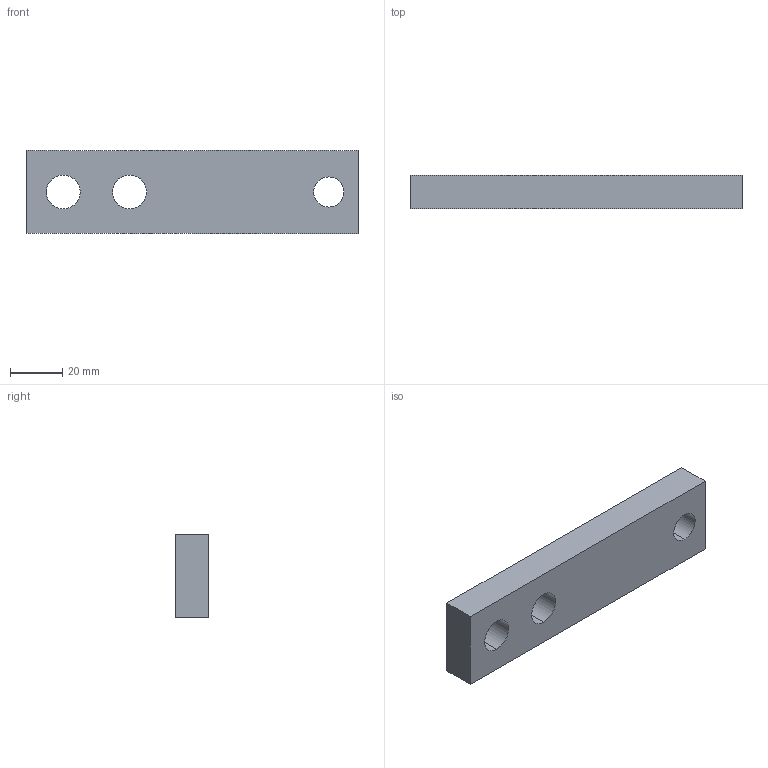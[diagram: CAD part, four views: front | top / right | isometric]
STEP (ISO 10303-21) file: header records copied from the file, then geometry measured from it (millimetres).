
FILE_DESCRIPTION (( 'STEP AP214' ), '1' );
FILE_NAME ('SS1558-500LB.STEP', '2024-09-09T12:37:50', ( '' ), ( '' ), 'SwSTEP 2.0', 'SolidWorks 2008', '' );
FILE_SCHEMA (( 'AUTOMOTIVE_DESIGN' ));
Length unit declared in the file: inch
Products named in the file (1): SS1558-500LB
Bounding box: 127 x 12.7 x 31.75 mm (x, y, z)
Volume: 46517 mm3; surface area: 12854.3 mm2
Topology: 1 solids, 1 shells, 12 faces, 30 edges, 20 vertices
Faces by surface type: cylinder 6, plane 6
Entity records: 431 total; most frequent: DIRECTION 68, CARTESIAN_POINT 63, ORIENTED_EDGE 60, EDGE_CURVE 30, AXIS2_PLACEMENT_3D 25, VERTEX_POINT 20, VECTOR 18, LINE 18
